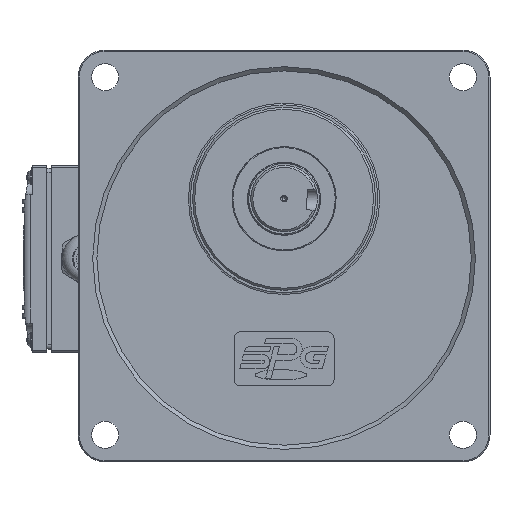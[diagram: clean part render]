
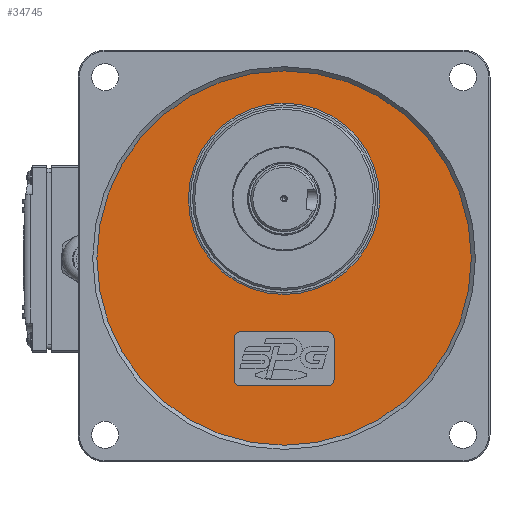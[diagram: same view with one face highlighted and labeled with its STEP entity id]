
A CAD part, top view. The second image highlights one B-rep face of the part: STEP entity #34745.
In plain terms, the highlighted planar face has unit normal (0, 0, 1).
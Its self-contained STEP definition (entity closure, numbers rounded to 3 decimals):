
#2460=LINE('',#59688,#4792);
#2554=LINE('',#59925,#4886);
#2559=LINE('',#59941,#4891);
#2562=LINE('',#59949,#4894);
#4792=VECTOR('',#46756,20.);
#4886=VECTOR('',#47016,42.);
#4891=VECTOR('',#47035,20.);
#4894=VECTOR('',#47044,42.);
#6322=FACE_BOUND('',#9771,.T.);
#6323=FACE_BOUND('',#9772,.T.);
#7752=FACE_OUTER_BOUND('',#9770,.T.);
#9770=EDGE_LOOP('',(#27881));
#9771=EDGE_LOOP('',(#27882,#27883,#27884,#27885,#27886,#27887,#27888,#27889));
#9772=EDGE_LOOP('',(#27890));
#11867=CIRCLE('',#38043,90.);
#12007=CIRCLE('',#38298,3.);
#12011=CIRCLE('',#38305,3.);
#12012=CIRCLE('',#38308,3.);
#12013=CIRCLE('',#38311,3.);
#12017=CIRCLE('',#38318,46.);
#14651=VERTEX_POINT('',#58701);
#14797=VERTEX_POINT('',#59684);
#14799=VERTEX_POINT('',#59687);
#14856=VERTEX_POINT('',#59916);
#14857=VERTEX_POINT('',#59918);
#14858=VERTEX_POINT('',#59922);
#14863=VERTEX_POINT('',#59939);
#14864=VERTEX_POINT('',#59943);
#14865=VERTEX_POINT('',#59947);
#14869=VERTEX_POINT('',#59962);
#19037=EDGE_CURVE('',#14651,#14651,#11867,.T.);
#19250=EDGE_CURVE('',#14799,#14797,#2460,.T.);
#19366=EDGE_CURVE('',#14856,#14857,#12007,.T.);
#19369=EDGE_CURVE('',#14856,#14858,#2554,.T.);
#19376=EDGE_CURVE('',#14799,#14858,#12011,.T.);
#19378=EDGE_CURVE('',#14863,#14857,#2559,.T.);
#19379=EDGE_CURVE('',#14863,#14864,#12012,.T.);
#19382=EDGE_CURVE('',#14865,#14864,#2562,.T.);
#19383=EDGE_CURVE('',#14865,#14797,#12013,.T.);
#19388=EDGE_CURVE('',#14869,#14869,#12017,.T.);
#27881=ORIENTED_EDGE('',*,*,#19037,.T.);
#27882=ORIENTED_EDGE('',*,*,#19378,.T.);
#27883=ORIENTED_EDGE('',*,*,#19366,.F.);
#27884=ORIENTED_EDGE('',*,*,#19369,.T.);
#27885=ORIENTED_EDGE('',*,*,#19376,.F.);
#27886=ORIENTED_EDGE('',*,*,#19250,.T.);
#27887=ORIENTED_EDGE('',*,*,#19383,.F.);
#27888=ORIENTED_EDGE('',*,*,#19382,.T.);
#27889=ORIENTED_EDGE('',*,*,#19379,.F.);
#27890=ORIENTED_EDGE('',*,*,#19388,.F.);
#31195=PLANE('',#38317);
#34745=ADVANCED_FACE('',(#7752,#6322,#6323),#31195,.F.);
#38043=AXIS2_PLACEMENT_3D('',#58702,#46337,#46338);
#38298=AXIS2_PLACEMENT_3D('',#59919,#47010,#47011);
#38305=AXIS2_PLACEMENT_3D('',#59937,#47030,#47031);
#38308=AXIS2_PLACEMENT_3D('',#59944,#47038,#47039);
#38311=AXIS2_PLACEMENT_3D('',#59951,#47047,#47048);
#38317=AXIS2_PLACEMENT_3D('',#59961,#47060,#47061);
#38318=AXIS2_PLACEMENT_3D('',#59963,#47062,#47063);
#46337=DIRECTION('center_axis',(0.,0.,1.));
#46338=DIRECTION('ref_axis',(-1.,0.,0.));
#46756=DIRECTION('',(0.,-1.,0.));
#47010=DIRECTION('center_axis',(0.,0.,1.));
#47011=DIRECTION('ref_axis',(-0.707,0.707,0.));
#47016=DIRECTION('',(1.,0.,0.));
#47030=DIRECTION('center_axis',(0.,0.,1.));
#47031=DIRECTION('ref_axis',(0.707,0.707,0.));
#47035=DIRECTION('',(0.,1.,0.));
#47038=DIRECTION('center_axis',(0.,0.,1.));
#47039=DIRECTION('ref_axis',(-0.707,-0.707,0.));
#47044=DIRECTION('',(-1.,0.,0.));
#47047=DIRECTION('center_axis',(0.,0.,1.));
#47048=DIRECTION('ref_axis',(0.707,-0.707,0.));
#47060=DIRECTION('center_axis',(0.,0.,-1.));
#47061=DIRECTION('ref_axis',(-1.,0.,0.));
#47062=DIRECTION('center_axis',(0.,0.,1.));
#47063=DIRECTION('ref_axis',(-1.,0.,0.));
#58701=CARTESIAN_POINT('',(90.,0.,94.));
#58702=CARTESIAN_POINT('Origin',(0.,0.,94.));
#59684=CARTESIAN_POINT('',(24.,-58.5,94.));
#59687=CARTESIAN_POINT('',(24.,-38.5,94.));
#59688=CARTESIAN_POINT('',(24.,-38.5,94.));
#59916=CARTESIAN_POINT('',(-21.,-35.5,94.));
#59918=CARTESIAN_POINT('',(-24.,-38.5,94.));
#59919=CARTESIAN_POINT('Origin',(-21.,-38.5,94.));
#59922=CARTESIAN_POINT('',(21.,-35.5,94.));
#59925=CARTESIAN_POINT('',(-21.,-35.5,94.));
#59937=CARTESIAN_POINT('Origin',(21.,-38.5,94.));
#59939=CARTESIAN_POINT('',(-24.,-58.5,94.));
#59941=CARTESIAN_POINT('',(-24.,-58.5,94.));
#59943=CARTESIAN_POINT('',(-21.,-61.5,94.));
#59944=CARTESIAN_POINT('Origin',(-21.,-58.5,94.));
#59947=CARTESIAN_POINT('',(21.,-61.5,94.));
#59949=CARTESIAN_POINT('',(21.,-61.5,94.));
#59951=CARTESIAN_POINT('Origin',(21.,-58.5,94.));
#59961=CARTESIAN_POINT('Origin',(0.,0.,94.));
#59962=CARTESIAN_POINT('',(-46.,28.5,94.));
#59963=CARTESIAN_POINT('Origin',(0.,28.5,94.));
